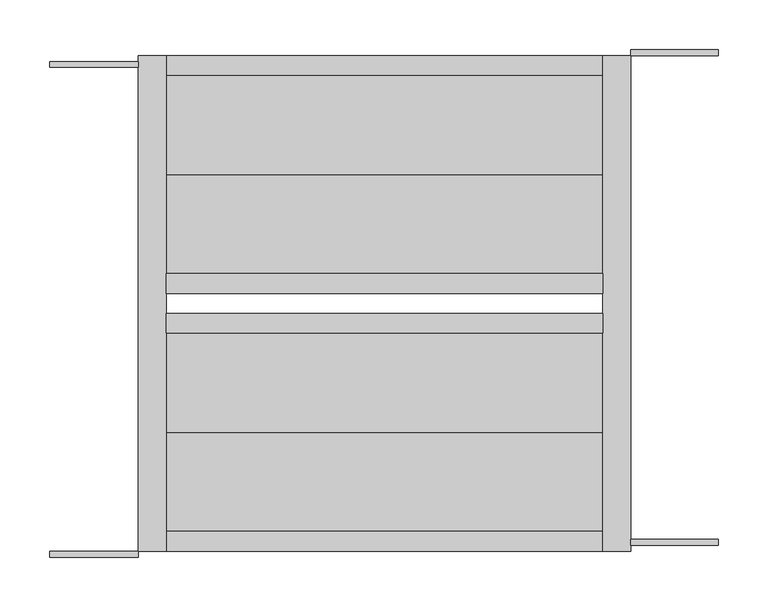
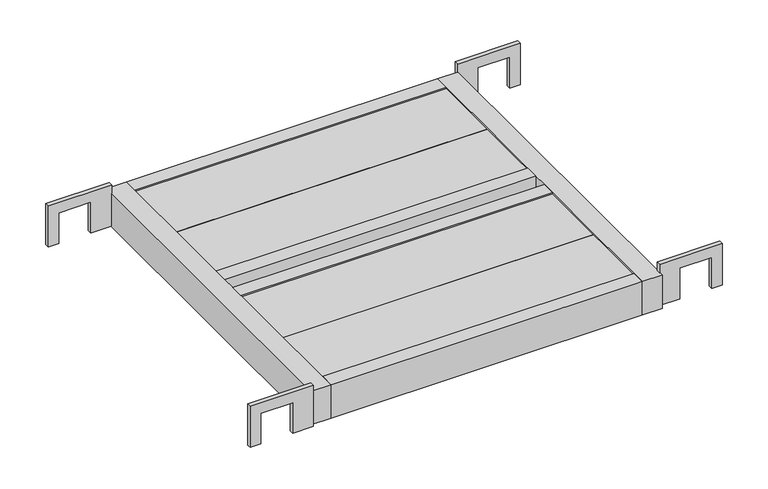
"""IFC4 building model written with IfcOpenShell, lengths in millimetres: proxy geometry, AKK布板HF-506_斜線なし_軽 : 鋼製布板 HF-506."""

from ifc_helpers import new_model, si_unit, frame, origin, place, context, project, spatial, polyline, outline, extrude, source, transform, mapped, element, save


def generic_models_f0d058aa(model_context):
    return source(origin(), model_context, "Body", "SweptSolid", [
        extrude(outline(polyline([(37.5, 553.0), (-24.1, 553.0), (-24.1, 581.5), (22.0, 581.5), (22.0, 626.5), (-24.1, 626.5), (-24.1, 641.5), (37.5, 641.5), (37.5, 553.0)])), frame((0.0, 12.0, 0.0), z_axis=(0.0, 1.0, 0.0), x_axis=(0.0, 0.0, 1.0)), (0.0, 0.0, 1.0), 6.0),
        extrude(outline(polyline([(37.5, 553.0), (-24.1, 553.0), (-24.1, 581.5), (22.0, 581.5), (22.0, 626.5), (-24.1, 626.5), (-24.1, 641.5), (37.5, 641.5), (37.5, 553.0)])), frame((0.0, 506.0, 0.0), z_axis=(0.0, 1.0, 0.0), x_axis=(0.0, 0.0, 1.0)), (0.0, 0.0, 1.0), 6.0),
        extrude(outline(polyline([(37.5, -32.5), (-24.1, -32.5), (-24.1, -17.5), (22.0, -17.5), (22.0, 27.5), (-24.1, 27.5), (-24.1, 57.0), (37.5, 57.0), (37.5, -32.5)])), frame((0.0, 0.0, 0.0), z_axis=(0.0, 1.0, 0.0), x_axis=(0.0, 0.0, 1.0)), (0.0, 0.0, 1.0), 6.0),
        extrude(outline(polyline([(37.5, -32.5), (-24.1, -32.5), (-24.1, -17.5), (22.0, -17.5), (22.0, 27.5), (-24.1, 27.5), (-24.1, 57.0), (37.5, 57.0), (37.5, -32.5)])), frame((0.0, 494.0, 0.0), z_axis=(0.0, 1.0, 0.0), x_axis=(0.0, 0.0, 1.0)), (0.0, 0.0, 1.0), 6.0),
        extrude(outline(polyline([(525.0, 486.0), (525.0, 386.0), (85.0, 386.0), (85.0, 486.0), (525.0, 486.0)])), frame((0.0, 0.0, 17.5), z_axis=(0.0, 0.0, 1.0), x_axis=(1.0, 0.0, 0.0)), (0.0, 0.0, 1.0), 5.0),
        extrude(outline(polyline([(525.0, 386.0), (525.0, 286.0), (85.0, 286.0), (85.0, 386.0), (525.0, 386.0)])), frame((0.0, 0.0, 17.5), z_axis=(0.0, 0.0, 1.0), x_axis=(1.0, 0.0, 0.0)), (0.0, 0.0, 1.0), 5.0),
        extrude(outline(polyline([(525.0, 226.0), (525.0, 126.0), (85.0, 126.0), (85.0, 226.0), (525.0, 226.0)])), frame((0.0, 0.0, 17.5), z_axis=(0.0, 0.0, 1.0), x_axis=(1.0, 0.0, 0.0)), (0.0, 0.0, 1.0), 5.0),
        extrude(outline(polyline([(525.0, 126.0), (525.0, 26.0), (85.0, 26.0), (85.0, 126.0), (525.0, 126.0)])), frame((0.0, 0.0, 17.5), z_axis=(0.0, 0.0, 1.0), x_axis=(1.0, 0.0, 0.0)), (0.0, 0.0, 1.0), 5.0),
        extrude(outline(polyline([(525.0, 286.0), (525.0, 266.0), (85.0, 266.0), (85.0, 286.0), (525.0, 286.0)])), frame((0.0, 0.0, -25.0), z_axis=(0.0, 0.0, 1.0), x_axis=(1.0, 0.0, 0.0)), (0.0, 0.0, 1.0), 50.0),
        extrude(outline(polyline([(525.0, 246.0), (525.0, 226.0), (85.0, 226.0), (85.0, 246.0), (525.0, 246.0)])), frame((0.0, 0.0, -25.0), z_axis=(0.0, 0.0, 1.0), x_axis=(1.0, 0.0, 0.0)), (0.0, 0.0, 1.0), 50.0),
        extrude(outline(polyline([(525.0, 6.0), (525.0, 506.0), (553.0, 506.0), (553.0, 6.0), (525.0, 6.0)])), frame((0.0, 0.0, -25.0), z_axis=(0.0, 0.0, 1.0), x_axis=(1.0, 0.0, 0.0)), (0.0, 0.0, 1.0), 50.0),
        extrude(outline(polyline([(57.0, 6.0), (57.0, 506.0), (85.0, 506.0), (85.0, 6.0), (57.0, 6.0)])), frame((0.0, 0.0, -25.0), z_axis=(0.0, 0.0, 1.0), x_axis=(1.0, 0.0, 0.0)), (0.0, 0.0, 1.0), 50.0),
        extrude(outline(polyline([(525.0, 506.0), (525.0, 486.0), (85.0, 486.0), (85.0, 506.0), (525.0, 506.0)])), frame((0.0, 0.0, -25.0), z_axis=(0.0, 0.0, 1.0), x_axis=(1.0, 0.0, 0.0)), (0.0, 0.0, 1.0), 50.0),
        extrude(outline(polyline([(525.0, 26.0), (525.0, 6.0), (85.0, 6.0), (85.0, 26.0), (525.0, 26.0)])), frame((0.0, 0.0, -25.0), z_axis=(0.0, 0.0, 1.0), x_axis=(1.0, 0.0, 0.0)), (0.0, 0.0, 1.0), 50.0),
    ])


if __name__ == "__main__":
    model = new_model("IFC4")
    model_context = context("Model", 3, world=origin())
    ifc_project = project(units=[si_unit("LENGTHUNIT", "METRE", prefix="MILLI")], contexts=[model_context])
    site = spatial("IfcSite", under=ifc_project)
    building = spatial("IfcBuilding", under=site)
    placement = place(None, origin())
    generic_models_shape = generic_models_f0d058aa(model_context)
    element("IfcBuildingElementProxy", 1, Name="AKK布板HF-506_斜線なし_軽 : 鋼製布板 HF-506", ObjectType="AKK布板HF-506_斜線なし_軽 : 鋼製布板 HF-506", at=placement, inside=building, context=model_context, shape_type="MappedRepresentation", body=[
        mapped(generic_models_shape, transform((0.0, 0.0, 0.0), x_axis=(1.0, 0.0, 0.0), y_axis=(0.0, 1.0, 0.0), z_axis=(0.0, 0.0, 1.0))),
    ])
    save(model, "model.ifc")
